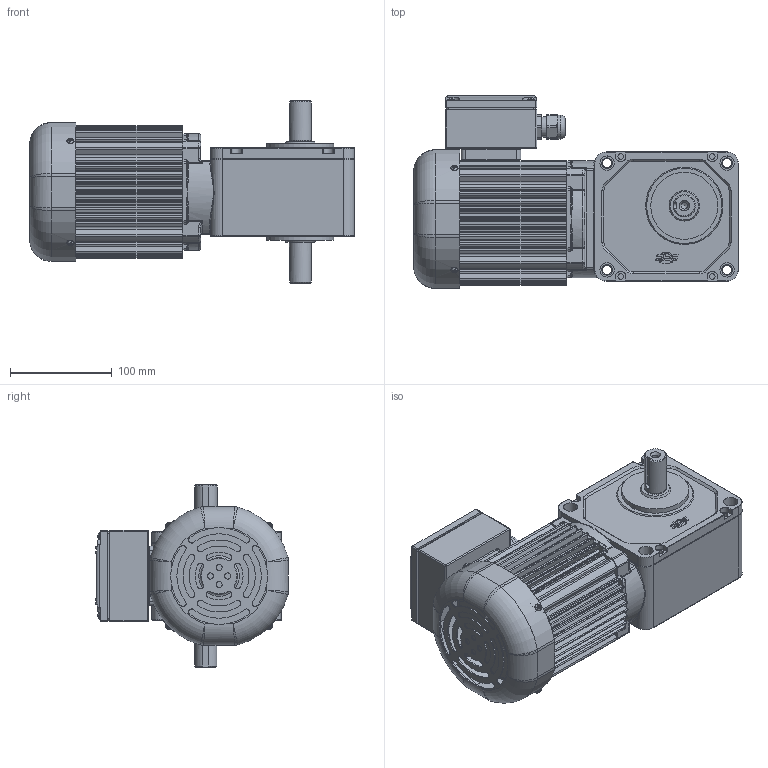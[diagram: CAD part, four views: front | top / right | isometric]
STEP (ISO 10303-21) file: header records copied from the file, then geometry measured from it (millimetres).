
FILE_DESCRIPTION(/* description */ (''),/* implementation_level */ '2;1');
FILE_NAME(/* name */ 'Z:\동력 3D 파일\PCS22B_0.2kW_3D.stp',/* time_stamp */ '2021-11-09T10:34:07+09:00',/* author */ ('jaebok'),/* organization */ (''),/* preprocessor_version */ 'ST-DEVELOPER v18.1',/* originating_system */ 'Autodesk Inventor 2022',/* authorisation */ '');
FILE_SCHEMA (('AUTOMOTIVE_DESIGN { 1 0 10303 214 3 1 1 }'));
Products named in the file (1): 부품37
Bounding box: 319 x 189.7 x 179 mm (x, y, z)
Volume: 1590031.4 mm3; surface area: 487503.7 mm2
Topology: 1 solids, 33 shells, 1922 faces, 4968 edges, 3141 vertices
Faces by surface type: plane 860, cylinder 689, torus 138, cone 112, bspline 107, sphere 16
Full cylindrical faces by diameter (mm): 2 x1, 3.242 x9, 3.25 x1, 3.6 x4, 4 x21, 5 x13, 5.386 x4, 5.5 x4, 6 x8, 6.647 x2, 7 x12, 8 x1, 9 x4, 10 x1, 12.5 x1, 14 x8, 15 x1, 20 x2, 21 x1, 21.656 x1, 22 x1, 23.6 x1, 25 x1, 27 x1, 30 x1, 30.562 x1, 34 x1, 40 x2, 45 x1, 60 x2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
Entity records: 65374 total; most frequent: CARTESIAN_POINT 16110, DIRECTION 10109, ORIENTED_EDGE 9834, EDGE_CURVE 4917, AXIS2_PLACEMENT_3D 3827, VERTEX_POINT 3141, LINE 2455, VECTOR 2455
